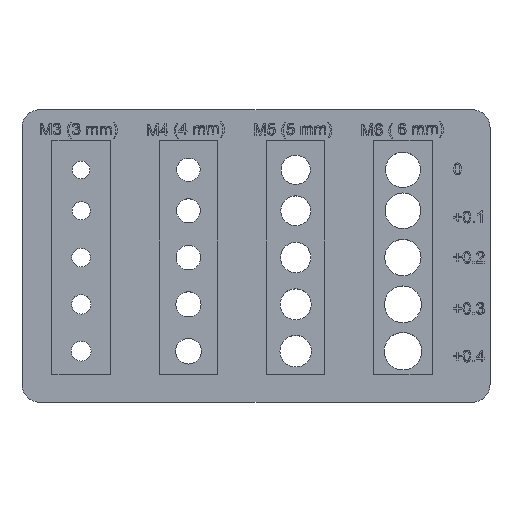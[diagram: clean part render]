
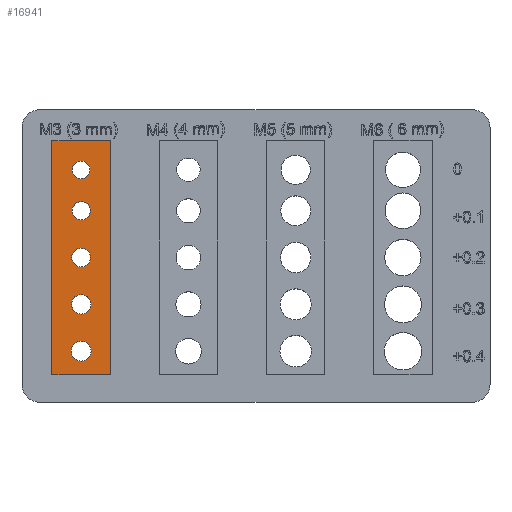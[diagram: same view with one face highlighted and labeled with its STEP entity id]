
A CAD part, top view. The second image highlights one B-rep face of the part: STEP entity #16941.
In plain terms, the highlighted planar face has unit normal (0, 0, 1).
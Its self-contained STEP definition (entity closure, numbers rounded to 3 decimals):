
#1564=FACE_BOUND('',#3820,.T.);
#1565=FACE_BOUND('',#3821,.T.);
#1566=FACE_BOUND('',#3822,.T.);
#1567=FACE_BOUND('',#3823,.T.);
#1568=FACE_BOUND('',#3824,.T.);
#1963=PLANE('',#17404);
#2859=FACE_OUTER_BOUND('',#3819,.T.);
#3819=EDGE_LOOP('',(#15943,#15944,#15945,#15946));
#3820=EDGE_LOOP('',(#15947));
#3821=EDGE_LOOP('',(#15948));
#3822=EDGE_LOOP('',(#15949));
#3823=EDGE_LOOP('',(#15950));
#3824=EDGE_LOOP('',(#15951));
#5310=LINE('',#33221,#6777);
#5312=LINE('',#33225,#6779);
#5314=LINE('',#33229,#6781);
#5316=LINE('',#33232,#6783);
#6777=VECTOR('',#19728,10.);
#6779=VECTOR('',#19732,10.);
#6781=VECTOR('',#19736,10.);
#6783=VECTOR('',#19740,10.);
#6818=CIRCLE('',#17349,1.55);
#6820=CIRCLE('',#17352,1.6);
#6836=CIRCLE('',#17376,1.7);
#6838=CIRCLE('',#17379,1.5);
#6840=CIRCLE('',#17382,1.65);
#8472=VERTEX_POINT('',#33107);
#8474=VERTEX_POINT('',#33113);
#8490=VERTEX_POINT('',#33161);
#8492=VERTEX_POINT('',#33167);
#8494=VERTEX_POINT('',#33173);
#8507=VERTEX_POINT('',#33218);
#8508=VERTEX_POINT('',#33220);
#8509=VERTEX_POINT('',#33224);
#8510=VERTEX_POINT('',#33228);
#10945=EDGE_CURVE('',#8472,#8472,#6818,.T.);
#10948=EDGE_CURVE('',#8474,#8474,#6820,.T.);
#10972=EDGE_CURVE('',#8490,#8490,#6836,.T.);
#10975=EDGE_CURVE('',#8492,#8492,#6838,.T.);
#10978=EDGE_CURVE('',#8494,#8494,#6840,.T.);
#11000=EDGE_CURVE('',#8508,#8507,#5310,.T.);
#11002=EDGE_CURVE('',#8509,#8508,#5312,.T.);
#11004=EDGE_CURVE('',#8510,#8509,#5314,.T.);
#11006=EDGE_CURVE('',#8507,#8510,#5316,.T.);
#15943=ORIENTED_EDGE('',*,*,#11006,.T.);
#15944=ORIENTED_EDGE('',*,*,#11004,.T.);
#15945=ORIENTED_EDGE('',*,*,#11002,.T.);
#15946=ORIENTED_EDGE('',*,*,#11000,.T.);
#15947=ORIENTED_EDGE('',*,*,#10945,.T.);
#15948=ORIENTED_EDGE('',*,*,#10948,.T.);
#15949=ORIENTED_EDGE('',*,*,#10972,.T.);
#15950=ORIENTED_EDGE('',*,*,#10975,.T.);
#15951=ORIENTED_EDGE('',*,*,#10978,.T.);
#16941=ADVANCED_FACE('',(#2859,#1564,#1565,#1566,#1567,#1568),#1963,.T.);
#17349=AXIS2_PLACEMENT_3D('',#33109,#19600,#19601);
#17352=AXIS2_PLACEMENT_3D('',#33115,#19607,#19608);
#17376=AXIS2_PLACEMENT_3D('',#33163,#19663,#19664);
#17379=AXIS2_PLACEMENT_3D('',#33169,#19670,#19671);
#17382=AXIS2_PLACEMENT_3D('',#33175,#19677,#19678);
#17404=AXIS2_PLACEMENT_3D('',#33233,#19741,#19742);
#19600=DIRECTION('center_axis',(0.,0.,-1.));
#19601=DIRECTION('ref_axis',(-1.,0.,0.));
#19607=DIRECTION('center_axis',(0.,0.,-1.));
#19608=DIRECTION('ref_axis',(-1.,0.,0.));
#19663=DIRECTION('center_axis',(0.,0.,-1.));
#19664=DIRECTION('ref_axis',(-1.,0.,0.));
#19670=DIRECTION('center_axis',(0.,0.,-1.));
#19671=DIRECTION('ref_axis',(-1.,0.,0.));
#19677=DIRECTION('center_axis',(0.,0.,-1.));
#19678=DIRECTION('ref_axis',(-1.,0.,0.));
#19728=DIRECTION('',(0.,-1.,0.));
#19732=DIRECTION('',(-1.,0.,0.));
#19736=DIRECTION('',(0.,1.,0.));
#19740=DIRECTION('',(1.,0.,0.));
#19741=DIRECTION('center_axis',(0.,0.,1.));
#19742=DIRECTION('ref_axis',(1.,0.,0.));
#33107=CARTESIAN_POINT('',(-68.45,33.,6.));
#33109=CARTESIAN_POINT('Origin',(-70.,33.,6.));
#33113=CARTESIAN_POINT('',(-68.4,25.,6.));
#33115=CARTESIAN_POINT('Origin',(-70.,25.,6.));
#33161=CARTESIAN_POINT('',(-68.3,9.,6.));
#33163=CARTESIAN_POINT('Origin',(-70.,9.,6.));
#33167=CARTESIAN_POINT('',(-68.5,40.,6.));
#33169=CARTESIAN_POINT('Origin',(-70.,40.,6.));
#33173=CARTESIAN_POINT('',(-68.35,17.,6.));
#33175=CARTESIAN_POINT('Origin',(-70.,17.,6.));
#33218=CARTESIAN_POINT('',(-75.,5.,6.));
#33220=CARTESIAN_POINT('',(-75.,45.,6.));
#33221=CARTESIAN_POINT('',(-75.,5.,6.));
#33224=CARTESIAN_POINT('',(-65.,45.,6.));
#33225=CARTESIAN_POINT('',(-75.,45.,6.));
#33228=CARTESIAN_POINT('',(-65.,5.,6.));
#33229=CARTESIAN_POINT('',(-65.,45.,6.));
#33232=CARTESIAN_POINT('',(-65.,5.,6.));
#33233=CARTESIAN_POINT('Origin',(-70.,25.,6.));
